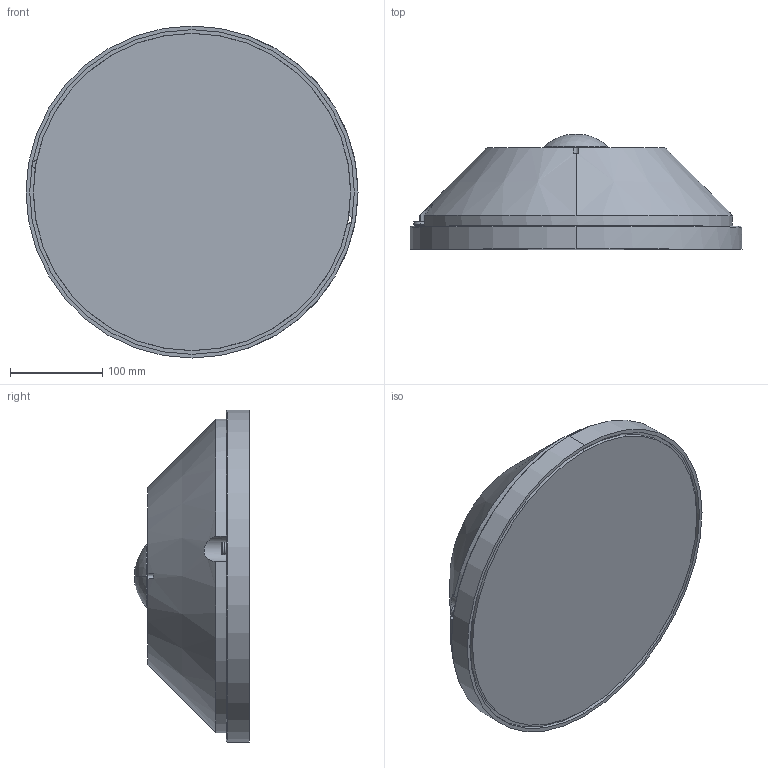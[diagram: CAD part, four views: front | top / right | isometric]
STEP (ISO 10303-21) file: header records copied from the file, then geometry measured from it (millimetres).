
FILE_DESCRIPTION (( 'STEP AP214' ), '1' );
FILE_NAME ('0019681 EZ-0300-360.STEP', '2022-02-28T15:12:19', ( '' ), ( '' ), 'SwSTEP 2.0', 'SolidWorks 2021', '' );
FILE_SCHEMA (( 'AUTOMOTIVE_DESIGN' ));
Length unit declared in the file: millimetre
Products named in the file (1): 0019681 EZ-0300-360
Bounding box: 360 x 124.43 x 360 mm (x, y, z)
Volume: 7785350.7 mm3; surface area: 293218.7 mm2
Topology: 3 solids, 3 shells, 174 faces, 436 edges, 250 vertices
Faces by surface type: cylinder 76, cone 53, plane 39, torus 4, sphere 2
Entity records: 7148 total; most frequent: CARTESIAN_POINT 1123, DIRECTION 919, ORIENTED_EDGE 788, EDGE_CURVE 394, AXIS2_PLACEMENT_3D 373, VERTEX_POINT 250, EDGE_LOOP 204, CIRCLE 198
